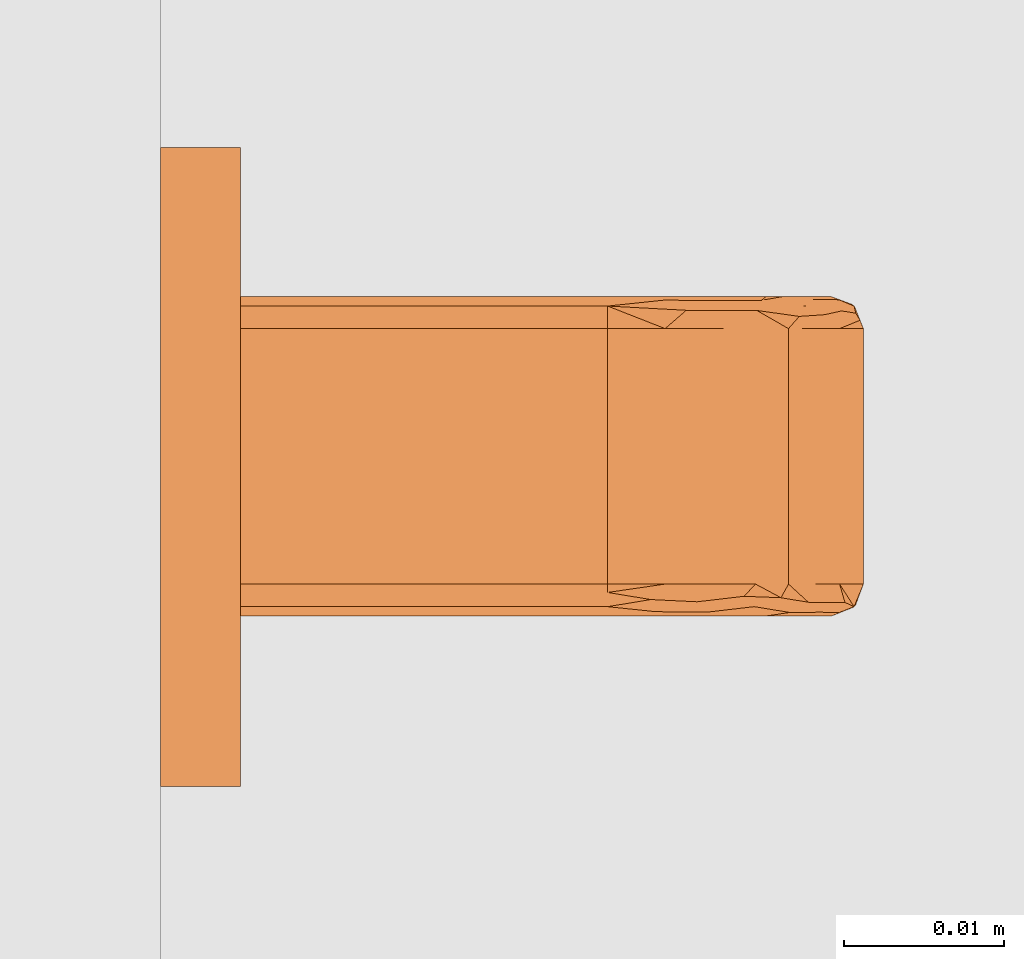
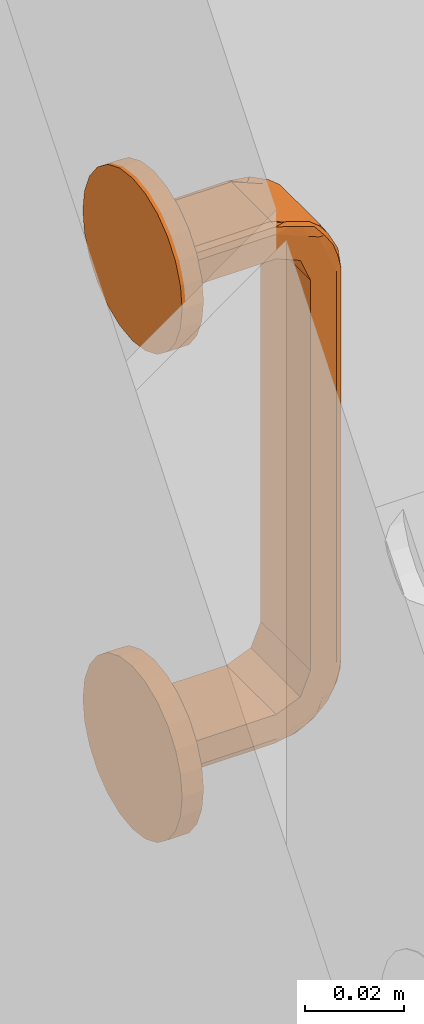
# One storey, part 54 of 67: 1 proxy.
"""IFC4 building model written with IfcOpenShell, lengths in millimetres."""

from ifc_helpers import new_model, entity, si_unit, converted_unit, direction, frame, origin, place, context, subcontext, project, spatial, polygons, source, transform, mapped, material, type_object, type_shapes, element, save


model = new_model("IFC4")

# Units and contexts
model_context = context("Model", 3, precision=0.01, world=origin(), true_north=direction((0.0, 1.0)))
body_context = subcontext(model_context, "Body", "Model", "MODEL_VIEW")
ifc_project = project(units=[si_unit("LENGTHUNIT", "METRE", prefix="MILLI"), si_unit("AREAUNIT", "SQUARE_METRE"), si_unit("VOLUMEUNIT", "CUBIC_METRE"), converted_unit("PLANEANGLEUNIT", "DEGREE", entity("IfcPlaneAngleMeasure", 0.017453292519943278), si_unit("PLANEANGLEUNIT", "RADIAN"), dimensions=[0, 0, 0, 0, 0, 0, 0])], contexts=[model_context])

# Site, building, storey, space
site_placement = place(None, origin())
site = spatial("IfcSite", under=ifc_project, at=site_placement, Name="Tomtens navn", CompositionType="ELEMENT")
building_placement = place(site_placement, origin())
building = spatial("IfcBuilding", under=site, at=building_placement, Name="Byggets navn", CompositionType="ELEMENT")
storey_placement = place(building_placement, origin())
storey = spatial("IfcBuildingStorey", under=building, at=storey_placement, Name="Level 01", CompositionType="ELEMENT", Elevation=2.1993652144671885e-25)
space_placement = place(storey_placement, origin())
space = spatial("IfcSpace", under=storey, at=space_placement, Name="102", CompositionType="ELEMENT", PredefinedType="NOTDEFINED")

# Proxy
ifc_material = material(Name="Handtag, vitt", Category="Unassigned")
building_element_proxy_type = type_object("IfcBuildingElementProxyType", Name="Handtag skåp1:Handtag skåp", PredefinedType="NOTDEFINED", material=ifc_material)
shared_shape = source(origin(), body_context, "Body", "Tessellation", [
    polygons([(8.670220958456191, -4.999999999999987, 4.021099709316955), (10.084434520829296, -4.9999999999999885, 3.435313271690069), (10.67022095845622, -4.999999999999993, 2.021099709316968), (10.67022095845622, -5.0000000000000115, -4.0210997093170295), (-9.32977904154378, -5.0000000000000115, -4.0210997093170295), (-9.32977904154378, -4.999999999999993, 2.021099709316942), (-8.743992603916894, -4.9999999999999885, 3.435313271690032), (-7.32977904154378, -4.999999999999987, 4.021099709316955), (8.670220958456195, -28.00000000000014, 4.0210997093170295), (10.084434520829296, -28.000000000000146, 3.435313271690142), (10.67022095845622, -28.00000000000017, 2.021099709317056), (8.670220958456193, -15.654960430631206, 4.02109970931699), (10.67022095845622, -17.34503987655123, 2.021099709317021), (10.08659387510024, -16.21238630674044, 3.433150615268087), (10.67022095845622, -37.914414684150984, -2.085585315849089), (10.67022095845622, -42.02109970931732, -11.999999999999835), (10.67022095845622, -42.02109970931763, -107.99999999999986), (10.67022095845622, -37.914414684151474, -117.91441468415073), (10.67022095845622, -28.00000000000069, -122.02109970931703), (10.67022095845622, -4.999999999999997, -122.02109970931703), (10.67022095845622, -4.999999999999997, -115.97890029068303), (10.67022095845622, -28.000000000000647, -115.97890029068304), (10.67022095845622, -33.641934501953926, -113.64193450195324), (10.67022095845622, -35.978900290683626, -107.99999999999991), (10.67022095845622, -35.978900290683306, -11.999999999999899), (10.67022095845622, -33.64193450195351, -6.358065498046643), (10.67022095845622, -28.000000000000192, -4.021099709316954), (-9.32977904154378, -28.000000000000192, -4.021099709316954), (-9.32977904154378, -33.64193450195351, -6.358065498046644), (-9.32977904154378, -35.97890029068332, -11.999999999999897), (-9.32977904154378, -35.97890029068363, -107.99999999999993), (-9.32977904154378, -33.641934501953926, -113.64193450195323), (-9.32977904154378, -28.000000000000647, -115.978900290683), (-9.32977904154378, -4.999999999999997, -115.978900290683), (-9.32977904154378, -4.999999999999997, -122.02109970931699), (-9.32977904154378, -28.00000000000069, -122.02109970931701), (-9.32977904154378, -37.91441468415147, -117.91441468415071), (-9.32977904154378, -42.0210997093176, -107.9999999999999), (-9.32977904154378, -42.02109970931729, -11.99999999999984), (-9.32977904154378, -37.91441468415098, -2.085585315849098), (-9.32977904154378, -28.000000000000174, 2.0210997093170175), (-8.743992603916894, -28.000000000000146, 3.435313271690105), (-7.329779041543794, -28.000000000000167, 4.0210997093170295), (-9.32977904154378, -15.654960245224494, 2.0210997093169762), (-7.3297790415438, -17.3450402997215, 4.021099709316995), (-8.741829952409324, -16.212386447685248, 3.4374726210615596), (8.670220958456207, -39.328628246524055, -0.6713717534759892), (8.670220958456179, -44.021099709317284, -11.999999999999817), (10.084434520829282, -43.43531327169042, -11.999999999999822), (10.67022095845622, -31.601265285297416, 0.5294067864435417), (8.670220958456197, -41.037713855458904, -4.797469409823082), (10.084434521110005, -40.40873190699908, -2.820007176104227), (8.670220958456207, -35.20253058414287, 1.0377138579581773), (9.809043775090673, -37.34144424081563, 0.5752165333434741), (9.818751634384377, -32.92350079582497, 2.8642465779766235), (10.67022095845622, -39.96775719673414, -7.042792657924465), (10.377327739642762, -28.000000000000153, 2.7282064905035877), (8.670220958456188, -42.529406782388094, -8.398734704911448), (9.779150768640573, -42.65191997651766, -6.400304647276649), (10.431420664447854, -34.75591670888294, 1.3575143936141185), (10.447049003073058, -37.641402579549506, -0.5884869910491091), (10.67022095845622, -34.7578399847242, -0.7780892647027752), (10.453824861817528, -31.5292743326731, 2.5026982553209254), (8.670220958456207, -31.601265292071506, 2.5294067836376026), (8.670220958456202, -40.18317105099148, -2.7344205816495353), (9.435587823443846, -40.00295364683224, -1.6197407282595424), (9.543801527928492, -41.59747716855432, -3.9137042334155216), (10.67022095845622, -38.941085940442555, -4.564188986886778), (10.502246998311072, -40.95405539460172, -4.794062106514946), (10.477567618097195, -42.45420227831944, -8.476170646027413), (9.193272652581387, -43.80444460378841, -11.999999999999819), (9.638611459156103, -43.53877057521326, -9.303396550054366), (10.67022095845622, -40.99442845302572, -9.521396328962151), (-7.329779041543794, -44.021099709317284, -11.999999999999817), (-7.329779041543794, -39.328628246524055, -0.6713717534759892), (-8.743992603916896, -43.43531327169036, -11.999999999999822), (-7.329779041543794, -35.20253057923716, 1.0377138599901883), (-8.743992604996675, -37.179992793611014, 0.40873192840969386), (-9.32977904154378, -40.52940677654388, -8.39873469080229), (-7.329779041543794, -41.03771385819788, -4.7974694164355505), (-8.468601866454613, -40.57521654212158, -2.658555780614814), (-8.478309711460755, -42.86424658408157, -7.076499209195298), (-9.32977904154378, -32.95720734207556, -0.03224280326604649), (-9.036885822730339, -42.72820649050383, -11.999999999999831), (-7.329779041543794, -31.601265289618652, 2.529406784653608), (-8.43870885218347, -33.59969531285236, 2.6519199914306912), (-9.090978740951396, -41.35751443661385, -5.244083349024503), (-9.106607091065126, -39.41151304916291, -2.3585974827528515), (-9.32977904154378, -39.221910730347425, -5.242160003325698), (-9.11338295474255, -42.50269824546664, -8.470725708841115), (-7.329779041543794, -42.52940678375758, -8.398734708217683), (-7.329779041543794, -37.26557941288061, 0.18317105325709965), (-8.095145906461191, -36.54048464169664, 1.37463273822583), (-8.182791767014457, -38.855367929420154, -0.47819170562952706), (-9.32977904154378, -35.43581101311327, -1.0589140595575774), (-7.852830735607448, -28.00000000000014, 3.8044446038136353), (-8.29816953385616, -30.69660343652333, 3.5387705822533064), (-9.060718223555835, -31.048754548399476, 2.7104148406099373), (-9.074370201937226, -34.340507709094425, 1.5930015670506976), (-9.32977904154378, -30.47860367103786, 0.9944284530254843), (-7.32977904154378, -33.664314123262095, 1.6748639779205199), (8.670220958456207, -33.664314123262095, 1.6748639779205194), (8.670220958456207, -30.748770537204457, 2.882521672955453), (-7.32977904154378, -41.67486397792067, -6.335685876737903), (8.670220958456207, -41.67486397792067, -6.335685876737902), (8.670220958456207, -40.50174611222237, -3.5035288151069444), (-7.32977904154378, -36.496471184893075, 0.5017461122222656), (8.670220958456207, -36.496471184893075, 0.5017461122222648), (-7.32977904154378, -30.83215706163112, 2.847981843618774), (8.670220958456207, -42.882521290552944, -9.251228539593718), (-7.32977904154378, -42.84798184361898, -9.167842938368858), (-7.32977904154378, -40.501746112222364, -3.5035288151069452), (8.670220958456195, -44.0210997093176, -107.99999999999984), (10.084434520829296, -43.435313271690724, -107.99999999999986), (10.67022095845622, -42.02109970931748, -61.38015936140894), (8.670220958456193, -44.021099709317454, -59.99999999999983), (8.670220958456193, -44.02109970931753, -83.30991987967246), (10.67022095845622, -42.02109970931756, -84.69007929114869), (8.670220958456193, -44.021099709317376, -36.69008012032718), (10.67022095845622, -42.02109970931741, -36.69007929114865), (10.67022095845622, -42.02109970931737, -24.34503925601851), (8.670220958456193, -44.021099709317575, -95.65495940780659), (8.670220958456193, -44.02109970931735, -24.345040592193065), (10.67022095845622, -42.021099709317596, -95.65495996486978), (10.084434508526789, -43.43531328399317, -90.1725199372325), (10.67022095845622, -42.021099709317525, -73.03511932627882), (10.043884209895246, -43.4747328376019, -67.20763959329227), (10.084434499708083, -43.435313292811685, -30.517560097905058), (10.084434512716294, -43.435313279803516, -43.7229280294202), (10.67022095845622, -42.021099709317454, -49.035119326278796), (10.049878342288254, -43.469044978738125, -55.462843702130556), (8.670220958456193, -44.02109970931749, -71.65495993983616), (10.188152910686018, -43.32336027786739, -78.66752152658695), (8.670220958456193, -44.02109970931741, -48.345040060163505), (-8.743992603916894, -43.43531327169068, -107.99999999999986), (-7.329779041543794, -44.0210997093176, -107.99999999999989), (-7.3297790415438, -44.02109970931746, -61.38015933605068), (-9.32977904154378, -42.021099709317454, -59.999999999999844), (-9.32977904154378, -42.02109970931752, -83.30992008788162), (-7.329779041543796, -44.02109970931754, -84.69007966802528), (-9.32977904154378, -42.02109970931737, -36.6900794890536), (-7.329779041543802, -44.021099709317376, -36.69007998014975), (-7.329779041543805, -44.02109970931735, -24.345039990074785), (-9.32977904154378, -42.02109970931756, -95.65495983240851), (-9.32977904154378, -42.02109970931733, -24.34503974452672), (-7.329779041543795, -44.021099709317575, -95.6549600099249), (-8.743992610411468, -43.43531326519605, -90.17252002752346), (-7.329779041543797, -44.0210997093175, -73.03511950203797), (-8.783412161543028, -43.39476296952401, -67.20763991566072), (-8.743992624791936, -43.43531325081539, -30.51756039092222), (-8.743992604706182, -43.43531327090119, -43.72292838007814), (-7.3297790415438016, -44.02109970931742, -49.03511997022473), (-8.777724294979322, -43.40075710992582, -55.462844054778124), (-9.32977904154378, -42.02109970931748, -71.65496025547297), (-8.632039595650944, -43.53903167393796, -78.66752173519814), (-9.32977904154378, -42.021099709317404, -48.34503974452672), (8.670220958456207, -39.32862824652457, -119.32862824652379), (8.670220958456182, -28.000000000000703, -124.02109970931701), (10.08443452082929, -28.0000000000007, -123.43531327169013), (10.67022095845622, -40.52940678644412, -111.60126528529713), (8.670220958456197, -35.202530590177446, -121.03771385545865), (10.084434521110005, -37.17999282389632, -120.40873190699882), (8.670220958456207, -41.03771385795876, -115.20253058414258), (9.809043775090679, -40.57521653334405, -117.34144424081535), (9.818751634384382, -42.864246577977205, -112.9235007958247), (10.67022095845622, -32.95720734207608, -119.96775719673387), (10.377327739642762, -42.728206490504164, -107.99999999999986), (8.67022095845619, -31.601265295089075, -122.52940678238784), (9.779150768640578, -33.59969535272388, -122.6519199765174), (10.431420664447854, -41.3575143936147, -114.75591670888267), (10.447049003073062, -39.41151300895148, -117.64140257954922), (10.67022095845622, -39.2219107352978, -114.75783998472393), (10.453824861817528, -42.50269825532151, -111.52927433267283), (8.670220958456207, -42.52940678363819, -111.60126529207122), (8.670220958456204, -37.26557941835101, -120.18317105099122), (9.435587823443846, -38.38025927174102, -120.00295364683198), (9.543801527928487, -36.08629576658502, -121.59747716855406), (10.67022095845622, -35.435811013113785, -118.9410859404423), (10.502246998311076, -35.205937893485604, -120.95405539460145), (10.477567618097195, -31.52382935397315, -122.45420227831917), (9.193272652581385, -28.0000000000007, -123.80444460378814), (9.638611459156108, -30.69660344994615, -123.538770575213), (10.67022095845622, -30.47860367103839, -120.99442845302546), (-7.329779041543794, -28.000000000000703, -124.02109970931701), (-7.329779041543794, -39.32862824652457, -119.32862824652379), (-8.743992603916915, -28.0000000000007, -123.43531327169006), (-7.329779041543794, -41.03771385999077, -115.20253057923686), (-8.743992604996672, -40.40873192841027, -117.17999279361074), (-9.32977904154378, -31.60126530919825, -120.52940677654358), (-7.329779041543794, -35.20253058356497, -121.03771385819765), (-8.468601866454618, -37.341444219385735, -120.57521654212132), (-8.478309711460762, -32.92350079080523, -122.8642465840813), (-9.32977904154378, -39.967757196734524, -112.9572073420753), (-9.036885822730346, -28.000000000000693, -122.72820649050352), (-7.329779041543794, -42.529406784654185, -111.60126528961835), (-8.438708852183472, -42.65191999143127, -113.59969531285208), (-9.090978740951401, -34.75591665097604, -121.35751443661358), (-9.106607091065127, -37.64140251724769, -119.41151304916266), (-9.32977904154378, -34.75783999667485, -119.22191073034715), (-9.113382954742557, -31.529274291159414, -122.50269824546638), (-7.329779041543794, -31.601265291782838, -122.52940678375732), (-7.329779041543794, -40.18317105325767, -117.26557941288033), (-8.095145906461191, -41.37463273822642, -116.54048464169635), (-8.182791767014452, -39.521808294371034, -118.8553679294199), (-9.32977904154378, -38.941085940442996, -115.435811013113), (-7.852830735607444, -43.804444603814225, -107.99999999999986), (-8.298169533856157, -43.53877058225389, -110.69660343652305), (-9.060718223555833, -42.710414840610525, -111.04875454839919), (-9.074370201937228, -41.59300156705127, -114.34050770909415), (-9.32977904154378, -40.99442845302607, -110.47860367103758), (-7.32977904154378, -41.6748639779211, -113.66431412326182), (8.670220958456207, -41.6748639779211, -113.66431412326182), (8.670220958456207, -42.88252167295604, -110.74877053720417), (-7.32977904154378, -33.66431412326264, -121.67486397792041), (8.670220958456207, -33.66431412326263, -121.67486397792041), (8.670220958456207, -36.4964711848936, -120.50174611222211), (-7.32977904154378, -40.50174611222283, -116.49647118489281), (8.670220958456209, -40.50174611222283, -116.49647118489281), (-7.32977904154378, -42.84798184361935, -110.83215706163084), (8.670220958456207, -30.748771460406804, -122.88252129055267), (-7.32977904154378, -30.832157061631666, -122.84798184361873), (-7.32977904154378, -36.49647118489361, -120.50174611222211), (8.670220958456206, -4.99999999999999, -124.02109970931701), (-7.329779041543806, -4.99999999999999, -124.021099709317), (-8.743992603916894, -4.99999999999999, -123.43531327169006), (10.084434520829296, -4.99999999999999, -123.43531327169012), (8.670220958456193, -17.345041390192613, -124.021099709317), (10.67022095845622, -15.654959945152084, -122.02109970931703), (10.086593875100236, -16.787613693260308, -123.43315061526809), (-9.32977904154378, -17.34504010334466, -122.02109970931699), (-7.3297790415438, -15.654959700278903, -124.021099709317), (-8.741829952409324, -16.787613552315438, -123.43747262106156)], [[[8, 1, 2, 3, 4, 5, 6, 7]], [[30, 25, 24, 31]], [[35, 34, 21, 20, 226, 223, 224, 225]], [[13, 10, 57, 11]], [[10, 13, 14]], [[14, 12, 9]], [[12, 2, 1]], [[14, 2, 12]], [[3, 14, 13]], [[3, 2, 14]], [[9, 10, 14]], [[4, 3, 13, 11, 50, 62, 15, 68, 56, 73, 16, 121, 120, 130, 115, 126, 118, 124, 17, 160, 172, 18, 178, 166, 183, 19, 228, 20, 21, 22, 23, 24, 25, 26, 27]], [[5, 4, 27, 28]], [[184, 231, 224, 223, 227, 158]], [[34, 35, 230, 36, 189, 199, 37, 205, 193, 210, 38, 144, 139, 154, 138, 156, 141, 145, 39, 79, 89, 40, 95, 83, 100, 41, 44, 6, 5, 28, 29, 30, 31, 32, 33]], [[45, 42, 96, 43]], [[42, 45, 46]], [[46, 44, 41]], [[44, 7, 6]], [[46, 7, 44]], [[8, 46, 45]], [[8, 7, 46]], [[41, 42, 46]], [[1, 8, 45, 43, 9, 12]], [[33, 22, 21, 34]], [[61, 62, 60]], [[69, 56, 68]], [[47, 65, 66]], [[53, 54, 55]], [[59, 51, 105, 58]], [[67, 65, 106, 51]], [[70, 56, 69]], [[63, 60, 50]], [[10, 64, 55]], [[52, 67, 59]], [[54, 53, 108, 47]], [[58, 71, 72]], [[60, 55, 54]], [[68, 61, 69]], [[67, 52, 66]], [[15, 61, 68]], [[63, 10, 55]], [[11, 57, 10, 63]], [[71, 58, 110, 48]], [[49, 16, 70]], [[61, 60, 54]], [[50, 11, 63]], [[52, 61, 54]], [[62, 61, 15]], [[62, 50, 60]], [[55, 60, 63]], [[10, 9, 103, 64]], [[55, 64, 102, 53]], [[52, 54, 66]], [[54, 47, 66]], [[65, 67, 66]], [[51, 59, 67]], [[61, 52, 69]], [[52, 59, 69]], [[70, 69, 59]], [[59, 72, 70]], [[70, 16, 73, 56]], [[72, 71, 49]], [[70, 72, 49]], [[58, 72, 59]], [[26, 29, 28, 27]], [[25, 30, 29, 26]], [[96, 85, 109, 43]], [[90, 87, 79]], [[86, 77, 101, 85]], [[98, 99, 86]], [[93, 92, 107, 77]], [[87, 82, 81]], [[81, 82, 80]], [[99, 95, 78]], [[88, 89, 87]], [[86, 99, 78]], [[78, 94, 93]], [[76, 91, 82]], [[81, 80, 112, 75]], [[92, 93, 94]], [[94, 78, 88]], [[40, 88, 95]], [[90, 76, 82]], [[39, 84, 76, 90]], [[98, 97, 42]], [[97, 98, 86]], [[88, 87, 81]], [[79, 39, 90]], [[88, 81, 94]], [[89, 88, 40]], [[89, 79, 87]], [[82, 87, 90]], [[76, 74, 111, 91]], [[82, 91, 104, 80]], [[77, 86, 93]], [[86, 78, 93]], [[81, 75, 94]], [[92, 94, 75]], [[95, 88, 78]], [[97, 96, 42]], [[85, 96, 97]], [[85, 97, 86]], [[42, 41, 98]], [[100, 83, 95, 99]], [[99, 98, 100]], [[98, 41, 100]], [[103, 9, 43, 109, 85, 101, 77, 107, 92, 75, 47, 108, 53, 102, 64]], [[105, 51, 106, 65, 47, 75, 112, 80, 104, 91, 111, 74, 48, 110, 58]], [[121, 16, 49, 128, 129, 130, 120]], [[118, 125, 114, 167, 17, 124]], [[126, 133, 118]], [[126, 115, 127]], [[123, 119, 134, 129, 128, 49, 71, 48]], [[125, 117, 122, 113, 114]], [[131, 130, 129]], [[130, 131, 115]], [[126, 127, 133]], [[127, 116, 132]], [[133, 117, 125]], [[131, 134, 116]], [[131, 116, 127]], [[115, 131, 127]], [[131, 129, 134]], [[133, 127, 132]], [[133, 132, 117]], [[118, 133, 125]], [[143, 74, 76, 150, 151, 152, 142]], [[140, 147, 135, 206, 136, 146]], [[148, 155, 140]], [[148, 137, 149]], [[145, 141, 156, 151, 150, 76, 84, 39]], [[147, 139, 144, 38, 135]], [[153, 152, 151]], [[152, 153, 137]], [[148, 149, 155]], [[149, 138, 154]], [[155, 139, 147]], [[153, 156, 138]], [[153, 138, 149]], [[137, 153, 149]], [[153, 151, 156]], [[155, 149, 154]], [[155, 154, 139]], [[140, 155, 147]], [[48, 74, 143, 142, 152, 137, 148, 140, 146, 136, 113, 122, 117, 132, 116, 134, 119, 123]], [[171, 172, 170]], [[179, 166, 178]], [[157, 176, 164]], [[163, 164, 165]], [[169, 161, 215, 168]], [[176, 157, 175]], [[180, 166, 179]], [[173, 170, 160]], [[114, 174, 165]], [[162, 177, 169]], [[164, 163, 218, 157]], [[168, 181, 182]], [[170, 165, 164]], [[178, 171, 179]], [[177, 162, 176]], [[18, 171, 178]], [[173, 114, 165]], [[17, 167, 114, 173]], [[181, 168, 220, 158]], [[159, 19, 180]], [[171, 170, 164]], [[160, 17, 173]], [[162, 171, 164]], [[172, 171, 18]], [[172, 160, 170]], [[165, 170, 173]], [[114, 113, 213, 174]], [[165, 174, 212, 163]], [[177, 175, 216, 161]], [[164, 176, 162]], [[175, 177, 176]], [[161, 169, 177]], [[171, 162, 179]], [[162, 169, 179]], [[180, 179, 169]], [[169, 182, 180]], [[180, 19, 183, 166]], [[182, 181, 159]], [[180, 182, 159]], [[168, 182, 169]], [[23, 32, 31, 24]], [[22, 33, 32, 23]], [[206, 195, 219, 136]], [[200, 197, 189]], [[196, 187, 211, 195]], [[208, 209, 196]], [[203, 202, 217, 187]], [[197, 192, 191]], [[191, 192, 190]], [[209, 205, 188]], [[198, 199, 197]], [[196, 209, 188]], [[188, 204, 203]], [[186, 201, 192]], [[191, 190, 222, 185]], [[202, 203, 204]], [[203, 196, 188]], [[37, 198, 205]], [[200, 186, 192]], [[36, 194, 186, 200]], [[208, 207, 135]], [[207, 208, 196]], [[198, 197, 191]], [[189, 36, 200]], [[198, 191, 204]], [[199, 198, 37]], [[199, 189, 197]], [[192, 197, 200]], [[186, 184, 221, 201]], [[192, 201, 214, 190]], [[196, 203, 187]], [[198, 204, 188]], [[191, 185, 204]], [[202, 204, 185]], [[205, 198, 188]], [[207, 206, 135]], [[195, 206, 207]], [[195, 207, 196]], [[135, 38, 208]], [[210, 193, 205, 209]], [[209, 208, 210]], [[208, 38, 210]], [[213, 113, 136, 219, 195, 211, 187, 217, 202, 185, 157, 218, 163, 212, 174]], [[215, 161, 216, 175, 157, 185, 222, 190, 214, 201, 221, 184, 158, 220, 168]], [[228, 226, 20]], [[226, 228, 229]], [[229, 227, 223]], [[227, 159, 181, 158]], [[229, 159, 227]], [[19, 229, 228]], [[19, 159, 229]], [[223, 226, 229]], [[231, 225, 224]], [[225, 231, 232]], [[232, 230, 35]], [[230, 186, 194, 36]], [[232, 186, 230]], [[184, 232, 231]], [[184, 186, 232]], [[35, 225, 232]]], closed=True),
    polygons([(-20.00000000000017, -4.999999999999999, 1.386238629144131e-14), (-19.318516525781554, -4.999999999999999, -5.176380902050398), (-17.320508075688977, -4.999999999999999, -9.999999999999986), (-14.14213562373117, -4.999999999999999, -14.142135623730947), (-10.000000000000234, -4.999999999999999, -17.320508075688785), (-5.176380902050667, -4.999999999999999, -19.318516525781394), (-2.580269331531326e-13, -4.999999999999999, -20.00000000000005), (5.176380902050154, -4.999999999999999, -19.31851652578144), (9.999999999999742, -4.999999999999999, -17.320508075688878), (14.142135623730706, -4.999999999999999, -14.142135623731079), (17.320508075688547, -4.999999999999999, -10.000000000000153), (19.318516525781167, -4.999999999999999, -5.176380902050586), (19.999999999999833, -4.999999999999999, -5.075939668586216e-14), (19.3185165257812, -4.999999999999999, 5.17638090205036), (17.32050807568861, -4.999999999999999, 9.999999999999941), (14.142135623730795, -4.999999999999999, 14.142135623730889), (9.99999999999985, -4.999999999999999, 17.32050807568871), (5.176380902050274, -4.999999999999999, 19.31851652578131), (-1.3958834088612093e-13, -4.999999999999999, 19.99999999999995), (-5.176380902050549, -4.999999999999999, 19.318516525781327), (-10.000000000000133, -4.999999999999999, 17.320508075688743), (-14.142135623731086, -4.999999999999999, 14.142135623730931), (-17.320508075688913, -4.999999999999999, 9.999999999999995), (-19.318516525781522, -4.999999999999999, 5.176380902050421), (-20.00000000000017, 0.0, 4.9806020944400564e-15), (-19.318516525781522, 0.0, 5.176380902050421), (-17.320508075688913, 0.0, 9.999999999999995), (-14.142135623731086, 0.0, 14.142135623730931), (-10.000000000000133, 0.0, 17.320508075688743), (-5.176380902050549, 0.0, 19.318516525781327), (-1.3958834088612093e-13, 0.0, 19.99999999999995), (5.176380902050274, 0.0, 19.31851652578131), (9.99999999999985, 0.0, 17.32050807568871), (14.142135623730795, 0.0, 14.142135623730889), (17.32050807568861, 0.0, 9.999999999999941), (19.3185165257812, 0.0, 5.17638090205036), (19.999999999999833, 0.0, -1.622393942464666e-13), (19.318516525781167, 0.0, -5.176380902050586), (17.320508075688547, 0.0, -10.000000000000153), (14.142135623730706, 0.0, -14.142135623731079), (9.999999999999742, 0.0, -17.320508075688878), (5.176380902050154, 0.0, -19.31851652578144), (-2.580269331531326e-13, 0.0, -20.00000000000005), (-5.176380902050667, 0.0, -19.318516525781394), (-10.000000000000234, 0.0, -17.320508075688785), (-14.14213562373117, 0.0, -14.142135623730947), (-17.320508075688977, 0.0, -9.999999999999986), (-19.318516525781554, 0.0, -5.176380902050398)], [[[8, 9, 10, 11, 12, 13, 14, 15, 16, 17, 18, 19, 20, 21, 22, 23, 24, 1, 2, 3, 4, 5, 6, 7]], [[31, 32, 33, 34, 35, 36, 37, 38, 39, 40, 41, 42, 43, 44, 45, 46, 47, 48, 25, 26, 27, 28, 29, 30]], [[48, 2, 1, 25]], [[47, 3, 2, 48]], [[5, 4, 46, 45]], [[47, 46, 4, 3]], [[6, 5, 45, 44]], [[7, 6, 44, 43]], [[42, 8, 7, 43]], [[41, 9, 8, 42]], [[11, 10, 40, 39]], [[41, 40, 10, 9]], [[12, 11, 39, 38]], [[13, 12, 38, 37]], [[36, 14, 13, 37]], [[35, 15, 14, 36]], [[17, 16, 34, 33]], [[35, 34, 16, 15]], [[18, 17, 33, 32]], [[19, 18, 32, 31]], [[30, 20, 19, 31]], [[29, 21, 20, 30]], [[23, 22, 28, 27]], [[29, 28, 22, 21]], [[24, 23, 27, 26]], [[1, 24, 26, 25]]], closed=True),
    polygons([(-20.000000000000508, -4.999999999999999, -120.0), (-19.31851652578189, -4.999999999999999, -125.17638090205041), (-17.32050807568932, -4.999999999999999, -130.0), (-14.142135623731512, -4.999999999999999, -134.14213562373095), (-10.000000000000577, -4.999999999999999, -137.3205080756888), (-5.176380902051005, -4.999999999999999, -139.3185165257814), (-6.006528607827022e-13, -4.999999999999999, -140.00000000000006), (5.176380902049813, -4.999999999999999, -139.31851652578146), (9.999999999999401, -4.999999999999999, -137.3205080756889), (14.142135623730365, -4.999999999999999, -134.1421356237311), (17.320508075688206, -4.999999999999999, -130.00000000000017), (19.318516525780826, -4.999999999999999, -125.1763809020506), (19.999999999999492, -4.999999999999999, -120.00000000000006), (19.31851652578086, -4.999999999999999, -114.82361909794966), (17.32050807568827, -4.999999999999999, -110.00000000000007), (14.142135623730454, -4.999999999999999, -105.85786437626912), (9.99999999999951, -4.999999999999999, -102.6794919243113), (5.176380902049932, -4.999999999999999, -100.6814834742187), (-4.779843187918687e-13, -4.999999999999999, -100.00000000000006), (-5.176380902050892, -4.999999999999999, -100.68148347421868), (-10.000000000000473, -4.999999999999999, -102.67949192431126), (-14.142135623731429, -4.999999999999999, -105.85786437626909), (-17.320508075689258, -4.999999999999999, -110.00000000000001), (-19.31851652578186, -4.999999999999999, -114.82361909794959), (-20.000000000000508, 0.0, -120.00000000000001), (-19.31851652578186, 0.0, -114.82361909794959), (-17.320508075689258, 0.0, -110.00000000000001), (-14.142135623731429, 0.0, -105.85786437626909), (-10.000000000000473, 0.0, -102.67949192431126), (-5.176380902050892, 0.0, -100.68148347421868), (-4.779843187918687e-13, 0.0, -100.00000000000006), (5.176380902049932, 0.0, -100.6814834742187), (9.99999999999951, 0.0, -102.6794919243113), (14.142135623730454, 0.0, -105.85786437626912), (17.32050807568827, 0.0, -110.00000000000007), (19.31851652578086, 0.0, -114.82361909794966), (19.999999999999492, 0.0, -120.00000000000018), (19.318516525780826, 0.0, -125.1763809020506), (17.320508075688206, 0.0, -130.00000000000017), (14.142135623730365, 0.0, -134.1421356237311), (9.999999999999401, 0.0, -137.3205080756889), (5.176380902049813, 0.0, -139.31851652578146), (-6.006528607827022e-13, 0.0, -140.00000000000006), (-5.176380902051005, 0.0, -139.3185165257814), (-10.000000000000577, 0.0, -137.3205080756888), (-14.142135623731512, 0.0, -134.14213562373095), (-17.32050807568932, 0.0, -130.0), (-19.31851652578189, 0.0, -125.17638090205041)], [[[7, 8, 9, 10, 11, 12, 13, 14, 15, 16, 17, 18, 19, 20, 21, 22, 23, 24, 1, 2, 3, 4, 5, 6]], [[31, 32, 33, 34, 35, 36, 37, 38, 39, 40, 41, 42, 43, 44, 45, 46, 47, 48, 25, 26, 27, 28, 29, 30]], [[48, 2, 1, 25]], [[47, 3, 2, 48]], [[5, 4, 46, 45]], [[47, 46, 4, 3]], [[6, 5, 45, 44]], [[7, 6, 44, 43]], [[42, 8, 7, 43]], [[41, 9, 8, 42]], [[11, 10, 40, 39]], [[41, 40, 10, 9]], [[12, 11, 39, 38]], [[13, 12, 38, 37]], [[36, 14, 13, 37]], [[35, 15, 14, 36]], [[17, 16, 34, 33]], [[35, 34, 16, 15]], [[18, 17, 33, 32]], [[19, 18, 32, 31]], [[30, 20, 19, 31]], [[29, 21, 20, 30]], [[23, 22, 28, 27]], [[29, 28, 22, 21]], [[24, 23, 27, 26]], [[1, 24, 26, 25]]], closed=True),
])
type_shapes(building_element_proxy_type, [shared_shape])
proxy_placement = place(space_placement, frame((64165.85352810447, 21231.466456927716, 1120.0), z_axis=(0.0, 0.0, 1.0), x_axis=(0.0, 1.0, 0.0)))
element("IfcBuildingElementProxy", 1, at=proxy_placement, inside=space, type_object=building_element_proxy_type, material=ifc_material, Name="Handtag skåp1:Handtag skåp", PredefinedType="NOTDEFINED", context=body_context, shape_type="MappedRepresentation", body=[
    mapped(shared_shape, transform((0.0, 0.0, 0.0), scale=1.0)),
])

save(model, "model.ifc")
